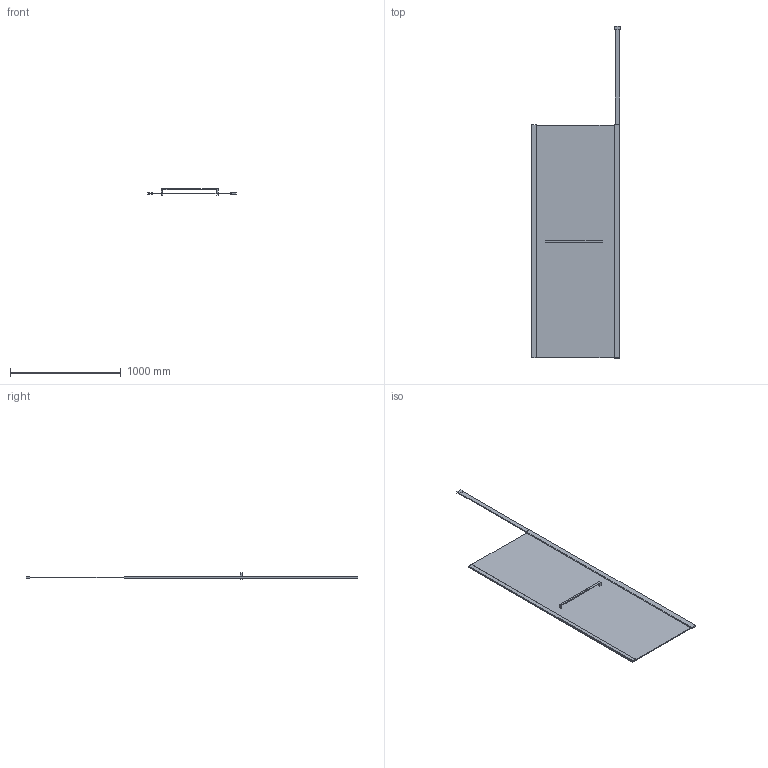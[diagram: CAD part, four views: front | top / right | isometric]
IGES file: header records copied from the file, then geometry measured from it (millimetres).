
Start section: SolidWorks IGES file using analytic representation for surfaces
Global section: file name: D:\Users\M.Szymanski\Desktop\Kabiny\PI_ALTIIa\PI_ALTIIa_80_wspornik pionowy_K3D.IGS; native system: SolidWorks 2011; preprocessor: SolidWorks 2011; author: M.Szymanski; date: 181002.140004; units: millimetre
Bounding box: 799.9 x 3000 x 54.5 mm (x, y, z)
Surface area: 3997624.2 mm2 (no closed solid volume)
Topology: 0 solids, 0 shells, 49 faces, 324 edges, 432 vertices
Faces by surface type: bspline 49
